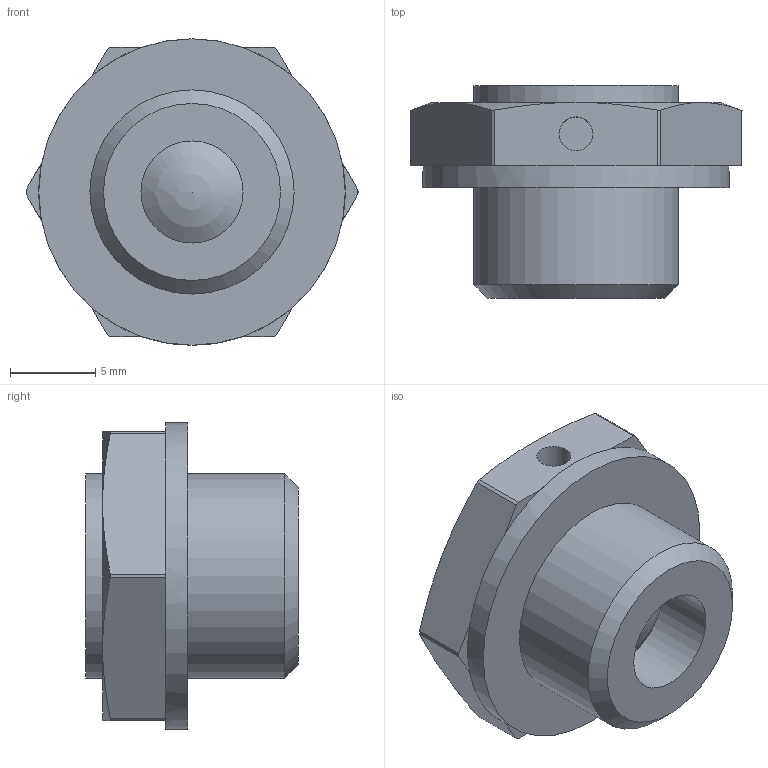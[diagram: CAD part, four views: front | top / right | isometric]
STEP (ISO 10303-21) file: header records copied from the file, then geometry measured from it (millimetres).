
FILE_DESCRIPTION( ( 'STEP AP203' ), '1' );
FILE_NAME( 'C:/Temp/Ganter_Step_05_03_2020/data/3_5/gn883/Breather valve GN 883-M12x1,5-160-A-MS.stp', '2020-03-12T13:42:45', ( 'License CC BY-ND 4.0' ), ( 'CADENAS' ), ' ', 'PARTsolutions', ' ' );
FILE_SCHEMA( ( 'CONFIG_CONTROL_DESIGN' ) );
Length unit declared in the file: millimetre
Products named in the file (1): _Breather valve GN 883-M12x1,5-160-A-MS
Bounding box: 19.5 x 12.5 x 18 mm (x, y, z)
Volume: 1974.8 mm3; surface area: 1196.4 mm2
Topology: 1 solids, 1 shells, 42 faces, 92 edges, 55 vertices
Faces by surface type: plane 23, cylinder 11, cone 7, sphere 1
Full cylindrical faces by diameter (mm): 2 x1, 6 x1, 12 x2, 18 x1
Entity records: 1166 total; most frequent: CARTESIAN_POINT 238, DIRECTION 196, ORIENTED_EDGE 164, AXIS2_PLACEMENT_3D 83, EDGE_CURVE 82, VERTEX_POINT 53, EDGE_LOOP 52, FACE_OUTER_BOUND 47
